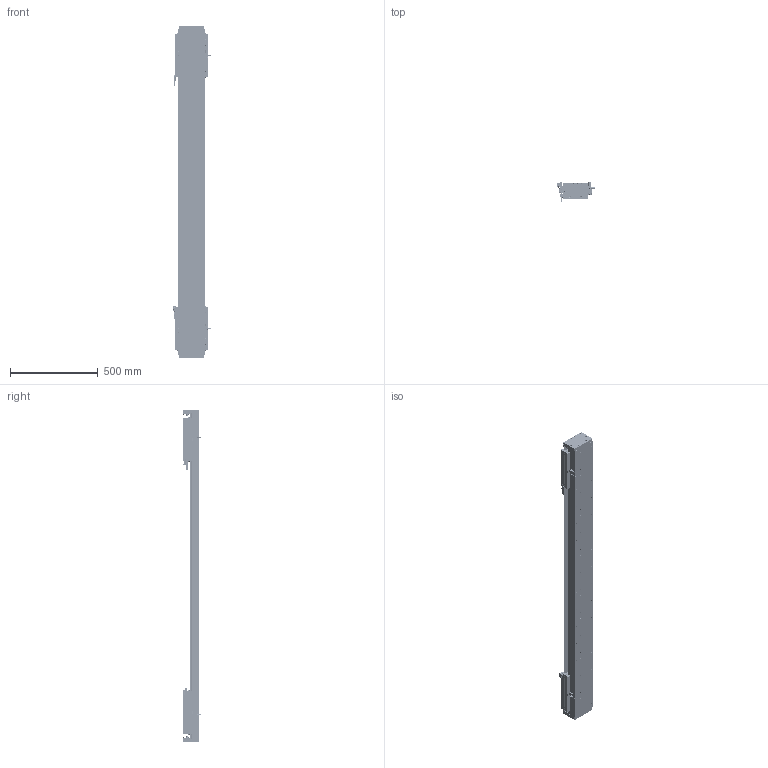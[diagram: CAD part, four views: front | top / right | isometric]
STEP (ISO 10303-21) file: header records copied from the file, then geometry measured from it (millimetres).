
FILE_DESCRIPTION (( 'STEP AP203' ), '1' );
FILE_NAME ('DA-C145-2-C3-T1280-C010-0.2 眻盄萇儂.STEP', '2025-08-13T10:20:11', ( '' ), ( '' ), 'SwSTEP 2.0', 'SolidWorks 2019', '' );
FILE_SCHEMA (( 'CONFIG_CONTROL_DESIGN' ));
Length unit declared in the file: millimetre
Products named in the file (38): DKW168-HXJ-ZJ-00 笢潔滅袉砎蝶; IU-CU145-L-00 菁釱(L1860); 复件 DA145-C3-DK-00 挡块^CU145-W 滚珠滑台; 复件 DA95-MFP-01 密封片^CU145-W 滚珠滑台; TAY01-M8; 葩璃 DA95-HXJ-00 遣喳砎蝶^DA-C145-2-C3-T-C010-0.2; 葩璃 DA145-C3-DP-A-00 菜えA^CU145-W 幗紩賑怢; 复件 DA95-DB-00  挡板^CU145-W 滚珠滑台; 复件 内六角平端紧定螺钉 GB.T77-2000 M5×10^CU145-W 滚珠滑台; 复件 DA145 钢带^复件 CU145 钢带组件_DA-C145-2-C3-T-C010-0.2; CU145-W-00 珨极趙賑雄怢啣; 葩璃 DA95-GT-T-00^IU-CU145-L 菁釱絳寢; 葩璃 XD-U-02L 棠掑喜^DA-C145-2-C3-T-C010-0.2; 66245-CU145-HT-W-00 賑雄怢啣(3D芞祧)(00); 复件 DA145-GYP-00 光电感应片^DA-C145-2-C3-T-C010-0.2; DKW-KGZ-ZJ-00 中间光电开关支架; CU145-W-00 珨极趙賑雄怢啣-1; IU-CU145-L 菁釱絳寢; 复件 DA146 钢带拉块^复件 CU145 钢带组件_DA-C145-2-C3-T-C010-0.2; 复件 DA95-HK-GT-00 滑块钢轨^CU145-W-00 一体化滑动台板; 葩璃 PM-T45^DA-C145-2-C3-T-C010-0.2; 葩璃 CKMA01-W060-TRL^DA-C145-2-C3-T-C010-0.2; 葩璃 PM-Y65^DA-C145-2-C3-T-C010-0.2; DKW-GYP-ZJ-00 笢潔嫖萇覜茼え; 葩璃 DMA-010-0.2 黍杅芛^DA-C145-2-C3-T-C010-0.2; 葩璃 CU145 詩湍郪璃^DA-C145-2-C3-T-C010-0.2; CU145-W 幗紩賑怢-1; 复件 DA145-C3-YB-A-00 压板A^CU145-W 滚珠滑台; 葩璃 鞠褒情蹟譫 M3^DA-C145-2-C3-T-C010-0.2; 复件 半圆头内六角螺钉 M3×6^CU145-W 滚珠滑台; 复件 DA145-DG 钢带端盖^复件 CU145 钢带组件_DA-C145-2-C3-T-C010-0.2; DA-C145-2-C3-T1280-C010-0.2 眻盄萇儂; CU145-W 幗紩賑怢; 复件 纯铜油杯 6x6mm^CU145-W 滚珠滑台; 复件 DA145-C3-YB-B-00 压板B^CU145-W 滚珠滑台; 葩璃 CKM03-W060-C1C2-TP-0.2^DA-C145-2-C3-T-C010-0.2; 复件 DA146 钢带垫块^复件 CU145 钢带组件_DA-C145-2-C3-T-C010-0.2; 葩璃 DA145-C3-DP-B-00 菜えB^CU145-W 幗紩賑怢
Assembly tree (180 placements, depth 4):
  DA-C145-2-C3-T1280-C010-0.2 眻盄萇儂
    IU-CU145-L 菁釱絳寢
      IU-CU145-L-00 菁釱(L1860)
      葩璃 DA95-GT-T-00^IU-CU145-L 菁釱絳寢  x4
    葩璃 CU145 詩湍郪璃^DA-C145-2-C3-T-C010-0.2
      复件 DA145-DG 钢带端盖^复件 CU145 钢带组件_DA-C145-2-C3-T-C010-0.2  x2
      复件 DA146 钢带拉块^复件 CU145 钢带组件_DA-C145-2-C3-T-C010-0.2  x2
      复件 DA146 钢带垫块^复件 CU145 钢带组件_DA-C145-2-C3-T-C010-0.2  x2
      复件 DA145 钢带^复件 CU145 钢带组件_DA-C145-2-C3-T-C010-0.2
    CU145-W 幗紩賑怢
      CU145-W-00 珨极趙賑雄怢啣
        66245-CU145-HT-W-00 賑雄怢啣(3D芞祧)(00)
        复件 DA95-HK-GT-00 滑块钢轨^CU145-W-00 一体化滑动台板  x8
      复件 DA95-MFP-01 密封片^CU145-W 滚珠滑台  x8
      复件 DA95-DB-00  挡板^CU145-W 滚珠滑台  x8
      复件 内六角平端紧定螺钉 GB.T77-2000 M5×10^CU145-W 滚珠滑台  x4
      复件 纯铜油杯 6x6mm^CU145-W 滚珠滑台  x4
      复件 半圆头内六角螺钉 M3×6^CU145-W 滚珠滑台  x16
      复件 DA145-C3-DK-00 挡块^CU145-W 滚珠滑台  x4
      葩璃 DA145-C3-DP-B-00 菜えB^CU145-W 幗紩賑怢  x2
      复件 DA145-C3-YB-B-00 压板B^CU145-W 滚珠滑台  x2
      葩璃 DA145-C3-DP-A-00 菜えA^CU145-W 幗紩賑怢  x3
      复件 DA145-C3-YB-A-00 压板A^CU145-W 滚珠滑台  x3
      TAY01-M8  x4
    CU145-W 幗紩賑怢-1
      CU145-W-00 珨极趙賑雄怢啣-1
        66245-CU145-HT-W-00 賑雄怢啣(3D芞祧)(00)
        复件 DA95-HK-GT-00 滑块钢轨^CU145-W-00 一体化滑动台板  x8
      复件 DA95-MFP-01 密封片^CU145-W 滚珠滑台  x8
      复件 DA95-DB-00  挡板^CU145-W 滚珠滑台  x8
      复件 内六角平端紧定螺钉 GB.T77-2000 M5×10^CU145-W 滚珠滑台  x4
      复件 纯铜油杯 6x6mm^CU145-W 滚珠滑台  x4
      复件 半圆头内六角螺钉 M3×6^CU145-W 滚珠滑台  x16
      复件 DA145-C3-DK-00 挡块^CU145-W 滚珠滑台  x4
      葩璃 DA145-C3-DP-B-00 菜えB^CU145-W 幗紩賑怢  x2
      复件 DA145-C3-YB-B-00 压板B^CU145-W 滚珠滑台  x2
      葩璃 DA145-C3-DP-A-00 菜えA^CU145-W 幗紩賑怢  x3
      复件 DA145-C3-YB-A-00 压板A^CU145-W 滚珠滑台  x3
      TAY01-M8  x4
    葩璃 CKMA01-W060-TRL^DA-C145-2-C3-T-C010-0.2
    葩璃 PM-T45^DA-C145-2-C3-T-C010-0.2  x4
    葩璃 XD-U-02L 棠掑喜^DA-C145-2-C3-T-C010-0.2
    葩璃 DA95-HXJ-00 遣喳砎蝶^DA-C145-2-C3-T-C010-0.2  x4
    葩璃 CKM03-W060-C1C2-TP-0.2^DA-C145-2-C3-T-C010-0.2  x2
    葩璃 DMA-010-0.2 黍杅芛^DA-C145-2-C3-T-C010-0.2  x2
    复件 DA145-GYP-00 光电感应片^DA-C145-2-C3-T-C010-0.2  x2
    DKW-GYP-ZJ-00 笢潔嫖萇覜茼え
    DKW-KGZ-ZJ-00 中间光电开关支架
    葩璃 PM-Y65^DA-C145-2-C3-T-C010-0.2
    葩璃 鞠褒情蹟譫 M3^DA-C145-2-C3-T-C010-0.2  x8
    DKW168-HXJ-ZJ-00 笢潔滅袉砎蝶
Bounding box: 213.7 x 108.45 x 1896 mm (x, y, z)
Volume: 11472250.9 mm3; surface area: 3490995.4 mm2
Topology: 175 solids, 239 shells, 7291 faces, 19317 edges, 11897 vertices
Faces by surface type: cylinder 3012, plane 2939, cone 1184, torus 140, sphere 8, bspline 8
Entity records: 123576 total; most frequent: CARTESIAN_POINT 33242, ORIENTED_EDGE 17320, DIRECTION 16997, EDGE_CURVE 8660, AXIS2_PLACEMENT_3D 6223, VERTEX_POINT 5596, VECTOR 4551, LINE 4551
